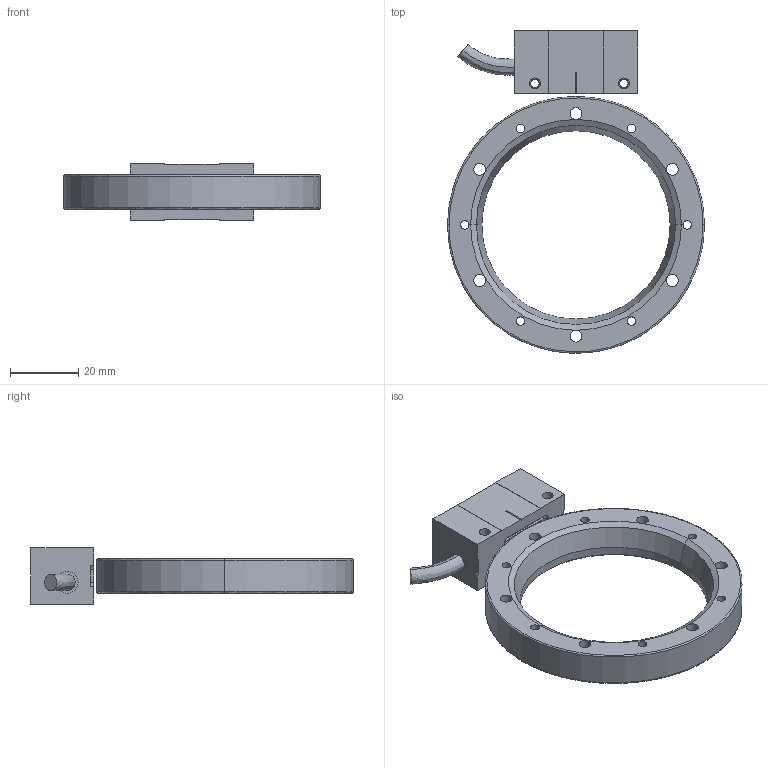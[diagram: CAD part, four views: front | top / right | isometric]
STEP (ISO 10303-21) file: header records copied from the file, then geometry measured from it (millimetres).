
FILE_DESCRIPTION (( 'STEP AP214' ), '1' );
FILE_NAME ('橈勤硉埴掑75郪磁.STEP', '2021-08-19T02:48:27', ( '' ), ( '' ), 'SwSTEP 2.0', 'SolidWorks 2016', '' );
FILE_SCHEMA (( 'AUTOMOTIVE_DESIGN' ));
Length unit declared in the file: millimetre
Products named in the file (3): 橈勤硉埴掑75郪磁; 橈勤硉俋倛_1; 埴嫖掑馱璃_75
Assembly tree (2 placements, depth 2):
  橈勤硉埴掑75郪磁
    橈勤硉俋倛_1
    埴嫖掑馱璃_75
Bounding box: 75 x 94.2 x 16.5 mm (x, y, z)
Volume: 28253 mm3; surface area: 14527.8 mm2
Topology: 6 solids, 6 shells, 180 faces, 454 edges, 297 vertices
Faces by surface type: cylinder 96, plane 68, cone 10, bspline 6
Entity records: 8242 total; most frequent: CARTESIAN_POINT 1582, DIRECTION 1010, ORIENTED_EDGE 900, EDGE_CURVE 450, AXIS2_PLACEMENT_3D 397, VERTEX_POINT 297, EDGE_LOOP 229, CIRCLE 218
